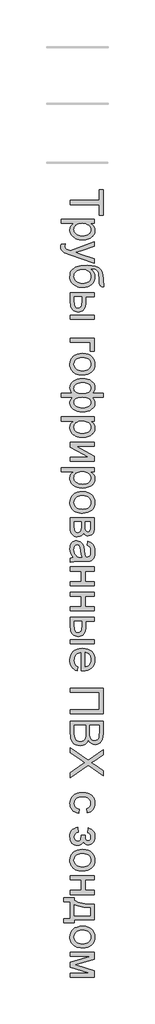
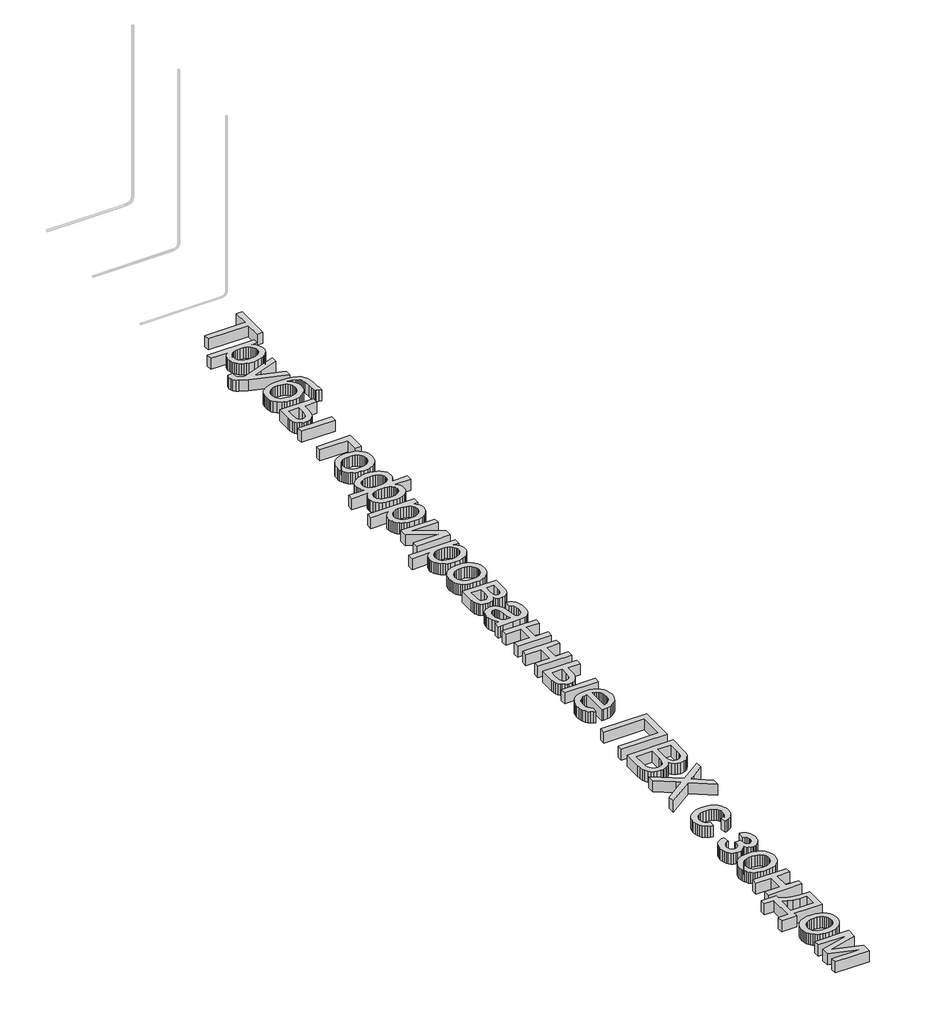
# One storey, part 26 of 33: 1 proxy.
"""IFC4 building model written with IfcOpenShell, lengths in millimetres."""

from ifc_helpers import new_model, si_unit, origin, origin_with_axes, place, context, project, spatial, polyline, outline, extrude, element, save

model = new_model("IFC4")

# Units and contexts
model_context = context("Model", 3, world=origin())
ifc_project = project(units=[si_unit("LENGTHUNIT", "METRE", prefix="MILLI")], contexts=[model_context])

# Site, building, storey
site = spatial("IfcSite", under=ifc_project)
building = spatial("IfcBuilding", under=site)
storey = spatial("IfcBuildingStorey", under=building, Name="Уровень 1", Elevation=0.0)

# Proxy
placement = place(None, origin())
element("IfcBuildingElementProxy", 1, Name="Надпись на модели 1", ObjectType="Надпись на модели 1", at=placement, inside=storey, context=model_context, shape_type="SweptSolid", body=[
    extrude(outline(polyline([(74424.4625724, -714.6440607), (74941.3856493, -714.6440607), (74941.3856493, -520.7979069), (75015.2318032, -520.7979069), (75015.2318032, -982.3363684), (74941.3856493, -982.3363684), (74941.3856493, -788.4902146), (74424.4625724, -788.4902146), (74424.4625724, -714.6440607)])), origin_with_axes(), (0.0, 0.0, 1.0), 150.0),
    extrude(outline(polyline([(74258.3087262, -1056.1825223), (74858.3087262, -1056.1825223), (74858.3087262, -1130.0286761), (74785.9048801, -1130.0286761), (74821.6200243, -1154.1152146), (74847.1308416, -1181.0863684), (74862.437332, -1212.5286761), (74867.5394955, -1250.0286761), (74865.7546397, -1275.7828829), (74860.4000724, -1299.96858), (74851.4757936, -1322.5857675), (74838.9818032, -1343.6344454), (74823.2426205, -1362.6548781), (74804.5827647, -1379.18733), (74783.0022359, -1393.2318011), (74758.5010339, -1404.7882915), (74704.0899762, -1420.2570415), (74644.702957, -1425.4132915), (74581.5479089, -1419.5899742), (74552.4718873, -1412.3108276), (74525.0635339, -1402.1200223), (74500.0394955, -1389.1572819), (74478.1164186, -1373.56233), (74459.2943032, -1355.3351665), (74443.5731493, -1334.4757915), (74431.1738104, -1312.007342), (74422.3171397, -1288.952955), (74417.0031373, -1265.3126305), (74415.2318032, -1241.0863684), (74419.9733897, -1207.1380511), (74434.1981493, -1176.8315607), (74455.6705051, -1150.8880511), (74482.1548801, -1130.0286761), (74258.3087262, -1130.0286761), (74258.3087262, -1056.1825223)]), holes=[polyline([(74637.9241109, -1130.0286761), (74602.3351686, -1132.0253708), (74571.7221878, -1138.015455), (74546.0851686, -1147.9989285), (74525.4241109, -1161.9757915), (74509.5226686, -1178.8012122), (74498.1644955, -1197.3303588), (74491.3495916, -1217.5632314), (74489.077957, -1239.49983), (74491.4307214, -1261.7519333), (74498.4890147, -1282.3543973), (74510.2528368, -1301.3072218), (74526.7221878, -1318.6104069), (74548.1314426, -1333.0289766), (74574.7149762, -1343.327955), (74606.4727887, -1349.507342), (74643.4048801, -1351.5671377), (74678.687332, -1349.5569213), (74709.2462262, -1343.5262723), (74735.0815628, -1333.4751906), (74756.1933416, -1319.4036761), (74772.5995916, -1302.5376906), (74784.3183416, -1284.1031954), (74791.3495916, -1264.1001906), (74793.6933416, -1242.5286761), (74791.2008537, -1221.0247699), (74783.7233897, -1200.7918973), (74771.2609498, -1181.8300583), (74753.8135339, -1164.1392531), (74731.6155171, -1149.2158756), (74704.9012743, -1138.5563204), (74673.6708056, -1132.1605872), (74637.9241109, -1130.0286761)])]), origin_with_axes(), (0.0, 0.0, 1.0), 150.0),
    extrude(outline(polyline([(74258.3087262, -1508.4902146), (74329.4144955, -1499.2594454), (74322.9241109, -1536.7594454), (74324.9613705, -1556.4830031), (74331.0731493, -1571.8075223), (74340.8267551, -1583.7426184), (74353.7894955, -1593.2979069), (74408.1644955, -1613.4902146), (74426.0491109, -1619.2594454), (74858.3087262, -1462.3363684), (74858.3087262, -1540.2209838), (74617.4433416, -1623.4421377), (74521.0971878, -1652.4325223), (74606.1933416, -1681.4229069), (74858.3087262, -1766.9517531), (74858.3087262, -1844.2594454), (74414.077957, -1693.24983), (74317.7318032, -1654.0190607), (74286.9745916, -1633.9349261), (74265.6644955, -1611.1825223), (74253.2245916, -1584.7522338), (74249.077957, -1553.6344454), (74251.3856493, -1532.2522338), (74258.3087262, -1508.4902146)])), origin_with_axes(), (0.0, 0.0, 1.0), 150.0),
    extrude(outline(polyline([(75024.4625724, -2210.0286761), (75024.4625724, -2274.6440607), (74989.3604089, -2267.6488684), (74966.8423801, -2255.6055992), (74953.5190628, -2238.9108877), (74946.0010339, -2217.9613684), (74942.5394955, -2183.8147338), (74941.3856493, -2127.5286761), (74937.1308416, -2052.4385319), (74931.812332, -2025.5349862), (74924.3664186, -2005.7257915), (74914.5767551, -1990.608604), (74902.2269955, -1977.78108), (74887.3171397, -1967.2432194), (74869.8471878, -1958.9950223), (74826.9745916, -1947.9433396), (74773.3568032, -1943.2017531), (74814.6068032, -1972.8952627), (74844.0298801, -2007.1680992), (74861.6620916, -2046.0563204), (74867.5394955, -2089.5959838), (74863.8030171, -2129.827354), (74852.593582, -2166.4349261), (74833.9111902, -2199.4187002), (74807.7558416, -2228.7786761), (74775.227296, -2252.8832434), (74737.4253128, -2270.1007915), (74694.3498921, -2280.4313204), (74646.0010339, -2283.87483), (74609.0148561, -2282.1665968), (74575.5082455, -2277.0418973), (74545.4812022, -2268.5007314), (74518.9337262, -2256.5430992), (74474.9613705, -2226.6693011), (74442.2750724, -2191.7113684), (74430.4436421, -2171.2666569), (74421.9926205, -2147.4325223), (74416.9220075, -2120.2089646), (74415.2318032, -2089.5959838), (74417.4087863, -2054.1828228), (74423.9397359, -2022.9433396), (74434.8246517, -1995.8775343), (74450.0635339, -1972.9854069), (74468.6963464, -1953.3925583), (74489.7630532, -1936.2245896), (74513.2636541, -1921.4815006), (74539.1981493, -1909.1632915), (74571.3841469, -1899.4457434), (74613.6392551, -1892.5046377), (74665.9634738, -1888.3399742), (74728.3568032, -1886.9517531), (74806.1107094, -1890.4538564), (74870.0455051, -1900.9601665), (74920.1611902, -1918.4706833), (74940.0368663, -1929.8525193), (74956.4577647, -1942.9854069), (74982.1714065, -1974.7657555), (75000.5382936, -2014.0731473), (75011.5584258, -2060.9075824), (75015.2318032, -2115.2690607), (75016.890457, -2197.4805992), (75019.6128128, -2205.5214646), (75024.4625724, -2210.0286761)]), holes=[polyline([(74648.3087262, -2210.0286761), (74678.8090267, -2208.0274742), (74706.4156974, -2202.0238684), (74731.1287383, -2192.0178588), (74752.9481493, -2178.0094454), (74770.774171, -2160.359205), (74783.5070436, -2139.4277146), (74791.1467671, -2115.2149742), (74793.6933416, -2087.7209838), (74791.0025363, -2059.0280752), (74782.9301205, -2033.8147338), (74769.476094, -2012.0809598), (74750.640457, -1993.8267531), (74727.3066229, -1979.3766329), (74700.3580051, -1969.0551184), (74669.7946037, -1962.8622098), (74635.6164186, -1960.7979069), (74602.1503729, -1963.0785559), (74572.8580051, -1969.9205031), (74547.7393152, -1981.3237482), (74526.7943032, -1997.2882915), (74510.2934017, -2016.5971857), (74498.5070436, -2038.0334838), (74491.4352287, -2061.5971857), (74489.077957, -2087.2882915), (74491.80482, -2113.3309598), (74499.9854089, -2136.7955031), (74513.6197238, -2157.6819213), (74532.7077647, -2175.9902146), (74556.2940027, -2190.8820415), (74583.4229089, -2201.5190607), (74614.0944835, -2207.9012723), (74648.3087262, -2210.0286761)])]), origin_with_axes(), (0.0, 0.0, 1.0), 150.0),
    extrude(outline(polyline([(74858.3087262, -2376.1825223), (74858.3087262, -2450.0286761), (74701.3856493, -2450.0286761), (74701.3856493, -2541.3267531), (74699.0734498, -2583.3384718), (74692.1368512, -2620.2390127), (74680.5758537, -2652.0283756), (74664.390457, -2678.7065607), (74644.1395556, -2699.8138324), (74620.3820436, -2714.890455), (74593.117921, -2723.9364285), (74562.3471878, -2726.9517531), (74534.8937623, -2724.4232074), (74509.5046397, -2716.8375704), (74486.17982, -2704.194842), (74464.9193032, -2686.4950223), (74447.2194835, -2663.242318), (74434.5767551, -2633.9409357), (74426.9911181, -2598.5908756), (74424.4625724, -2557.1921377), (74424.4625724, -2376.1825223), (74858.3087262, -2376.1825223)]), holes=[polyline([(74498.3087262, -2450.0286761), (74498.3087262, -2525.8940607), (74502.1849282, -2584.7041569), (74507.0301806, -2606.7263925), (74513.8135339, -2623.8267531), (74522.6521758, -2636.6362482), (74533.6632936, -2645.7858877), (74546.8468873, -2651.2756713), (74562.202957, -2653.1055992), (74586.3255532, -2647.6789165), (74607.6356493, -2631.3988684), (74616.343582, -2617.2687603), (74622.5635339, -2596.5851665), (74627.5394955, -2535.5575223), (74627.5394955, -2450.0286761), (74498.3087262, -2450.0286761)])]), origin_with_axes(), (0.0, 0.0, 1.0), 150.0),
    extrude(outline(polyline([(74858.3087262, -2782.3363684), (74858.3087262, -2856.1825223), (74424.4625724, -2856.1825223), (74424.4625724, -2782.3363684), (74858.3087262, -2782.3363684)])), origin_with_axes(), (0.0, 0.0, 1.0), 150.0),
    extrude(outline(polyline([(74858.3087262, -3197.7209838), (74858.3087262, -3437.7209838), (74784.4625724, -3437.7209838), (74784.4625724, -3271.5671377), (74424.4625724, -3271.5671377), (74424.4625724, -3197.7209838), (74858.3087262, -3197.7209838)])), origin_with_axes(), (0.0, 0.0, 1.0), 150.0),
    extrude(outline(polyline([(74641.3856493, -3474.6440607), (74697.5725484, -3478.6374502), (74745.9890147, -3490.6176184), (74786.6350484, -3510.5845656), (74819.5106493, -3538.5382915), (74840.5232695, -3566.6813204), (74855.5322839, -3597.7450223), (74864.5376926, -3631.7293973), (74867.5394955, -3668.6344454), (74863.8841469, -3709.3751305), (74852.9181012, -3746.2125704), (74834.6413585, -3779.1467651), (74809.0539186, -3808.1777146), (74777.0211662, -3831.8721256), (74739.4084859, -3848.796705), (74696.2158777, -3858.9514526), (74647.4433416, -3862.3363684), (74607.9150964, -3860.8399742), (74572.8399762, -3856.3507915), (74542.2179811, -3848.8688204), (74516.0491109, -3838.3940607), (74493.445445, -3825.0572218), (74473.5190628, -3808.9890127), (74456.2699642, -3790.1894333), (74441.6981493, -3768.6584838), (74430.1191229, -3745.2345055), (74421.8483897, -3720.7558396), (74416.8859498, -3695.2224862), (74415.2318032, -3668.6344454), (74418.8736301, -3627.2988083), (74429.7991109, -3590.1188204), (74448.0082455, -3557.0944814), (74473.5010339, -3528.2257915), (74505.8447839, -3504.7837843), (74544.6068032, -3488.0394934), (74589.7870916, -3477.9929189), (74641.3856493, -3474.6440607)]), holes=[polyline([(74641.5298801, -3548.4902146), (74605.71107, -3550.6266329), (74574.6969474, -3557.0358877), (74548.4875123, -3567.717979), (74527.0827647, -3582.6729069), (74510.4556613, -3600.8640127), (74498.5791589, -3621.2546377), (74491.4532575, -3643.8447819), (74489.077957, -3668.6344454), (74491.4667791, -3693.2979069), (74498.6332455, -3715.7979069), (74510.5773561, -3736.1344454), (74527.2991109, -3754.3075223), (74548.9156974, -3769.2624502), (74575.5443032, -3779.9445415), (74607.1849282, -3786.3537963), (74643.8375724, -3788.4902146), (74678.5205652, -3786.3402747), (74708.7233897, -3779.890455), (74734.446046, -3769.1407555), (74755.6885339, -3754.0911761), (74772.3156373, -3735.850491), (74784.1921397, -3715.5274742), (74791.3180412, -3693.1221256), (74793.6933416, -3668.6344454), (74791.3270556, -3643.8447819), (74784.2281974, -3621.2546377), (74772.3967671, -3600.8640127), (74755.8327647, -3582.6729069), (74734.4911181, -3567.717979), (74708.3267551, -3557.0358877), (74677.3396758, -3550.6266329), (74641.5298801, -3548.4902146)])]), origin_with_axes(), (0.0, 0.0, 1.0), 150.0),
    extrude(outline(polyline([(75015.2318032, -4194.6440607), (75015.2318032, -4268.4902146), (74816.6260339, -4268.4902146), (74839.0358897, -4290.9000704), (74854.9193032, -4315.43733), (74864.3844474, -4341.9938204), (74867.5394955, -4370.4613684), (74863.5280772, -4404.648568), (74851.4938224, -4435.0947819), (74831.4367311, -4461.8000103), (74803.3568032, -4484.7642531), (74769.1921397, -4503.2212843), (74730.8808416, -4516.4048781), (74688.4229089, -4524.3150343), (74641.8183416, -4526.9517531), (74593.4875123, -4524.1122098), (74550.0334859, -4515.59358), (74511.4562623, -4501.3958636), (74477.7558416, -4481.5190607), (74450.4015748, -4457.4235079), (74430.8628128, -4430.5695415), (74419.1395556, -4400.9571617), (74415.2318032, -4368.5863684), (74417.0346878, -4346.1945415), (74422.4433416, -4323.4421377), (74435.8928609, -4298.2378107), (74461.8183416, -4268.4902146), (74258.3087262, -4268.4902146), (74258.3087262, -4194.6440607), (74461.8183416, -4194.6440607), (74441.4818032, -4172.1801184), (74426.9144955, -4147.4805992), (74418.1524762, -4120.6176184), (74415.2318032, -4091.6632915), (74418.9637743, -4059.6801184), (74430.1596878, -4029.7882915), (74448.8195436, -4001.9878107), (74474.9433416, -3976.2786761), (74508.0172599, -3954.6981473), (74547.5274762, -3939.2834838), (74593.4739907, -3930.0346857), (74645.8568032, -3926.9517531), (74691.0461061, -3929.741717), (74732.4313224, -3938.1116088), (74770.0124522, -3952.0614285), (74803.7894955, -3971.5911761), (74831.6801205, -3995.835467), (74851.6019955, -4023.9289165), (74863.5551205, -4055.8715247), (74867.5394955, -4091.6632915), (74864.3844474, -4121.7534357), (74854.9193032, -4148.8507915), (74839.0358897, -4173.0995896), (74816.6260339, -4194.6440607), (75015.2318032, -4194.6440607)]), holes=[polyline([(74640.0875724, -4268.0575223), (74599.0403969, -4269.5944814), (74565.3219474, -4274.2053588), (74538.9322238, -4281.8901545), (74519.8712262, -4292.6488684), (74506.399171, -4305.7242891), (74496.7762743, -4320.359205), (74491.0025363, -4336.553616), (74489.077957, -4354.3075223), (74491.4442431, -4374.0355872), (74498.5431012, -4392.2582434), (74510.3745315, -4408.975491), (74526.9385339, -4424.18733), (74548.4875123, -4436.8390728), (74575.2738705, -4445.8760319), (74607.2976085, -4451.2982074), (74644.5587262, -4453.1055992), (74679.8051205, -4451.4379309), (74710.2558416, -4446.4349261), (74735.9108897, -4438.0965848), (74756.7702647, -4426.4229069), (74772.9241109, -4412.1350463), (74784.4625724, -4395.9541569), (74791.3856493, -4377.8802386), (74793.6933416, -4357.9132915), (74791.2909979, -4336.9412362), (74784.0839666, -4318.7366088), (74772.0722479, -4303.2994093), (74755.2558416, -4290.6296377), (74733.6437623, -4280.7543372), (74707.2450243, -4273.7005511), (74676.0596277, -4269.4682795), (74640.0875724, -4268.0575223)]), polyline([(74647.4433416, -4000.7979069), (74608.2756734, -4002.6458636), (74575.0034378, -4008.1897338), (74547.6266349, -4017.4295175), (74526.1452647, -4030.3652146), (74509.9283176, -4046.0412963), (74498.3447839, -4063.5022338), (74491.3946637, -4082.7480271), (74489.077957, -4103.7786761), (74491.3811421, -4125.2645535), (74498.2906974, -4143.8568011), (74509.8066229, -4159.5554189), (74525.9289186, -4172.3604069), (74546.6575844, -4182.2988083), (74571.9926205, -4189.3976665), (74601.9340267, -4193.6569814), (74636.4818032, -4195.0767531), (74673.3282575, -4193.584866), (74705.2618512, -4189.109205), (74732.2825844, -4181.6497699), (74754.390457, -4171.2065607), (74771.585469, -4157.7525343), (74783.8676205, -4141.2606473), (74791.2369113, -4121.7308997), (74793.6933416, -4099.1632915), (74791.2955051, -4078.3940607), (74784.1019955, -4059.6440607), (74772.1128128, -4042.9132915), (74755.327957, -4028.2017531), (74734.1981493, -4016.2125704), (74709.1741109, -4007.6488684), (74680.2558416, -4002.5106473), (74647.4433416, -4000.7979069)])]), origin_with_axes(), (0.0, 0.0, 1.0), 150.0),
    extrude(outline(polyline([(74258.3087262, -4619.2594454), (74858.3087262, -4619.2594454), (74858.3087262, -4693.1055992), (74785.9048801, -4693.1055992), (74821.6200243, -4717.1921377), (74847.1308416, -4744.1632915), (74862.437332, -4775.6055992), (74867.5394955, -4813.1055992), (74865.7546397, -4838.8598059), (74860.4000724, -4863.0455031), (74851.4757936, -4885.6626906), (74838.9818032, -4906.7113684), (74823.2426205, -4925.7318011), (74804.5827647, -4942.2642531), (74783.0022359, -4956.3087242), (74758.5010339, -4967.8652146), (74704.0899762, -4983.3339646), (74644.702957, -4988.4902146), (74581.5479089, -4982.6668973), (74552.4718873, -4975.3877506), (74525.0635339, -4965.1969454), (74500.0394955, -4952.234205), (74478.1164186, -4936.6392531), (74459.2943032, -4918.4120896), (74443.5731493, -4897.5527146), (74431.1738104, -4875.0842651), (74422.3171397, -4852.0298781), (74417.0031373, -4828.3895535), (74415.2318032, -4804.1632915), (74419.9733897, -4770.2149742), (74434.1981493, -4739.9084838), (74455.6705051, -4713.9649742), (74482.1548801, -4693.1055992), (74258.3087262, -4693.1055992), (74258.3087262, -4619.2594454)]), holes=[polyline([(74637.9241109, -4693.1055992), (74602.3351686, -4695.1022939), (74571.7221878, -4701.0923781), (74546.0851686, -4711.0758516), (74525.4241109, -4725.0527146), (74509.5226686, -4741.8781353), (74498.1644955, -4760.4072819), (74491.3495916, -4780.6401545), (74489.077957, -4802.5767531), (74491.4307214, -4824.8288564), (74498.4890147, -4845.4313204), (74510.2528368, -4864.3841449), (74526.7221878, -4881.68733), (74548.1314426, -4896.1058997), (74574.7149762, -4906.4048781), (74606.4727887, -4912.5842651), (74643.4048801, -4914.6440607), (74678.687332, -4912.6338444), (74709.2462262, -4906.6031954), (74735.0815628, -4896.5521136), (74756.1933416, -4882.4805992), (74772.5995916, -4865.6146136), (74784.3183416, -4847.1801184), (74791.3495916, -4827.1771136), (74793.6933416, -4805.6055992), (74791.2008537, -4784.101693), (74783.7233897, -4763.8688204), (74771.2609498, -4744.9069814), (74753.8135339, -4727.2161761), (74731.6155171, -4712.2927987), (74704.9012743, -4701.6332434), (74673.6708056, -4695.2375103), (74637.9241109, -4693.1055992)])]), origin_with_axes(), (0.0, 0.0, 1.0), 150.0),
    extrude(outline(polyline([(74858.3087262, -5071.5671377), (74858.3087262, -5145.4132915), (74527.4433416, -5145.4132915), (74858.3087262, -5326.8555992), (74858.3087262, -5422.3363684), (74424.4625724, -5422.3363684), (74424.4625724, -5348.4902146), (74753.3087262, -5348.4902146), (74424.4625724, -5168.2017531), (74424.4625724, -5071.5671377), (74858.3087262, -5071.5671377)])), origin_with_axes(), (0.0, 0.0, 1.0), 150.0),
    extrude(outline(polyline([(74258.3087262, -5533.1055992), (74858.3087262, -5533.1055992), (74858.3087262, -5606.9517531), (74785.9048801, -5606.9517531), (74821.6200243, -5631.0382915), (74847.1308416, -5658.0094454), (74862.437332, -5689.4517531), (74867.5394955, -5726.9517531), (74865.7546397, -5752.7059598), (74860.4000724, -5776.8916569), (74851.4757936, -5799.5088444), (74838.9818032, -5820.5575223), (74823.2426205, -5839.577955), (74804.5827647, -5856.1104069), (74783.0022359, -5870.1548781), (74758.5010339, -5881.7113684), (74704.0899762, -5897.1801184), (74644.702957, -5902.3363684), (74581.5479089, -5896.5130511), (74552.4718873, -5889.2339045), (74525.0635339, -5879.0430992), (74500.0394955, -5866.0803588), (74478.1164186, -5850.4854069), (74459.2943032, -5832.2582434), (74443.5731493, -5811.3988684), (74431.1738104, -5788.9304189), (74422.3171397, -5765.8760319), (74417.0031373, -5742.2357074), (74415.2318032, -5718.0094454), (74419.9733897, -5684.0611281), (74434.1981493, -5653.7546377), (74455.6705051, -5627.8111281), (74482.1548801, -5606.9517531), (74258.3087262, -5606.9517531), (74258.3087262, -5533.1055992)]), holes=[polyline([(74637.9241109, -5606.9517531), (74602.3351686, -5608.9484478), (74571.7221878, -5614.9385319), (74546.0851686, -5624.9220055), (74525.4241109, -5638.8988684), (74509.5226686, -5655.7242891), (74498.1644955, -5674.2534357), (74491.3495916, -5694.4863083), (74489.077957, -5716.4229069), (74491.4307214, -5738.6750103), (74498.4890147, -5759.2774742), (74510.2528368, -5778.2302987), (74526.7221878, -5795.5334838), (74548.1314426, -5809.9520535), (74574.7149762, -5820.2510319), (74606.4727887, -5826.4304189), (74643.4048801, -5828.4902146), (74678.687332, -5826.4799982), (74709.2462262, -5820.4493492), (74735.0815628, -5810.3982675), (74756.1933416, -5796.3267531), (74772.5995916, -5779.4607675), (74784.3183416, -5761.0262723), (74791.3495916, -5741.0232675), (74793.6933416, -5719.4517531), (74791.2008537, -5697.9478468), (74783.7233897, -5677.7149742), (74771.2609498, -5658.7531353), (74753.8135339, -5641.06233), (74731.6155171, -5626.1389526), (74704.9012743, -5615.4793973), (74673.6708056, -5609.0836641), (74637.9241109, -5606.9517531)])]), origin_with_axes(), (0.0, 0.0, 1.0), 150.0),
    extrude(outline(polyline([(74641.3856493, -5966.9517531), (74697.5725484, -5970.9451425), (74745.9890147, -5982.9253107), (74786.6350484, -6002.8922579), (74819.5106493, -6030.8459838), (74840.5232695, -6058.9890127), (74855.5322839, -6090.0527146), (74864.5376926, -6124.0370896), (74867.5394955, -6160.9421377), (74863.8841469, -6201.6828228), (74852.9181012, -6238.5202627), (74834.6413585, -6271.4544574), (74809.0539186, -6300.4854069), (74777.0211662, -6324.179818), (74739.4084859, -6341.1043973), (74696.2158777, -6351.2591449), (74647.4433416, -6354.6440607), (74607.9150964, -6353.1476665), (74572.8399762, -6348.6584838), (74542.2179811, -6341.1765127), (74516.0491109, -6330.7017531), (74493.445445, -6317.3649141), (74473.5190628, -6301.296705), (74456.2699642, -6282.4971256), (74441.6981493, -6260.9661761), (74430.1191229, -6237.5421978), (74421.8483897, -6213.0635319), (74416.8859498, -6187.5301785), (74415.2318032, -6160.9421377), (74418.8736301, -6119.6065006), (74429.7991109, -6082.4265127), (74448.0082455, -6049.4021737), (74473.5010339, -6020.5334838), (74505.8447839, -5997.0914766), (74544.6068032, -5980.3471857), (74589.7870916, -5970.3006112), (74641.3856493, -5966.9517531)]), holes=[polyline([(74641.5298801, -6040.7979069), (74605.71107, -6042.9343252), (74574.6969474, -6049.34358), (74548.4875123, -6060.0256713), (74527.0827647, -6074.9805992), (74510.4556613, -6093.171705), (74498.5791589, -6113.56233), (74491.4532575, -6136.1524742), (74489.077957, -6160.9421377), (74491.4667791, -6185.6055992), (74498.6332455, -6208.1055992), (74510.5773561, -6228.4421377), (74527.2991109, -6246.6152146), (74548.9156974, -6261.5701425), (74575.5443032, -6272.2522338), (74607.1849282, -6278.6614886), (74643.8375724, -6280.7979069), (74678.5205652, -6278.647967), (74708.7233897, -6272.1981473), (74734.446046, -6261.4484478), (74755.6885339, -6246.3988684), (74772.3156373, -6228.1581833), (74784.1921397, -6207.8351665), (74791.3180412, -6185.429818), (74793.6933416, -6160.9421377), (74791.3270556, -6136.1524742), (74784.2281974, -6113.56233), (74772.3967671, -6093.171705), (74755.8327647, -6074.9805992), (74734.4911181, -6060.0256713), (74708.3267551, -6049.34358), (74677.3396758, -6042.9343252), (74641.5298801, -6040.7979069)])]), origin_with_axes(), (0.0, 0.0, 1.0), 150.0),
    extrude(outline(polyline([(74858.3087262, -6437.7209838), (74858.3087262, -6600.4132915), (74855.8387743, -6652.7149742), (74848.4289186, -6689.6200223), (74834.4385339, -6716.7714646), (74812.2269955, -6739.81233), (74783.2906974, -6755.5515127), (74749.1260339, -6760.7979069), (74721.5959859, -6757.62483), (74697.8519955, -6748.1055992), (74677.7858897, -6732.2041569), (74661.2894955, -6709.8844454), (74645.9469474, -6737.2161761), (74621.265457, -6759.49983), (74589.1921397, -6774.3195415), (74551.6741109, -6779.2594454), (74521.4487503, -6775.1578829), (74495.3880532, -6766.7474261), (74473.4920195, -6754.0280752), (74455.7606493, -6736.99983), (74442.0677407, -6715.6356473), (74432.2870916, -6689.9084838), (74426.4187022, -6659.8183396), (74424.4625724, -6625.3652146), (74424.4625724, -6437.7209838), (74858.3087262, -6437.7209838)]), holes=[polyline([(74692.1548801, -6511.5671377), (74692.1548801, -6584.5479069), (74695.9048801, -6644.7642531), (74701.5298801, -6660.2690607), (74710.9048801, -6674.0430992), (74723.3087262, -6683.7245896), (74738.0202647, -6686.9517531), (74750.0184618, -6685.5364886), (74760.0515147, -6681.2906954), (74768.1194234, -6674.2143732), (74774.2221878, -6664.3075223), (74781.9024762, -6633.6224261), (74784.4625724, -6586.8555992), (74784.4625724, -6511.5671377), (74692.1548801, -6511.5671377)]), polyline([(74498.3087262, -6511.5671377), (74498.3087262, -6602.1440607), (74501.6440628, -6651.5070415), (74511.6500724, -6682.4805992), (74519.5331854, -6692.0809598), (74529.8411782, -6699.1031954), (74557.7318032, -6705.4132915), (74576.2113705, -6702.2582434), (74593.2846878, -6692.7930992), (74606.6440628, -6678.2618492), (74613.9818032, -6659.9084838), (74618.3087262, -6594.9325223), (74618.3087262, -6511.5671377), (74498.3087262, -6511.5671377)])]), origin_with_axes(), (0.0, 0.0, 1.0), 150.0),
    extrude(outline(polyline([(74479.8471878, -7148.4902146), (74449.5947839, -7113.2077627), (74429.7991109, -7076.8796377), (74418.8736301, -7038.6765127), (74415.2318032, -6997.7690607), (74417.422308, -6964.8889526), (74423.9938224, -6936.0563204), (74434.9463464, -6911.2711641), (74450.2798801, -6890.5334838), (74469.0208657, -6874.1587843), (74490.1957455, -6862.4625704), (74513.8045195, -6855.444842), (74539.8471878, -6853.1055992), (74570.4601686, -6856.6392531), (74598.2606493, -6867.2402146), (74622.0587262, -6883.5923781), (74640.6644955, -6904.3796377), (74654.7269955, -6928.8087242), (74664.8952647, -6956.0863684), (74676.0010339, -7019.9805992), (74687.6837262, -7095.4854069), (74701.3856493, -7148.0575223), (74717.827957, -7148.4902146), (74750.7846878, -7143.40608), (74762.9902166, -7137.0509117), (74772.3471878, -7128.1536761), (74781.6861301, -7112.7750704), (74788.3568032, -7094.0430992), (74793.6933416, -7046.5190607), (74790.1416589, -7002.5286761), (74779.4866109, -6971.8075223), (74759.781082, -6950.8580031), (74729.077957, -6936.1825223), (74738.3087262, -6862.3363684), (74778.6933416, -6875.1548781), (74810.4241109, -6894.2834838), (74834.6909378, -6921.5070415), (74852.6837262, -6958.6104069), (74863.8255532, -7003.9890127), (74867.5394955, -7056.0382915), (74864.2582455, -7105.9601665), (74854.4144955, -7145.5334838), (74839.6128128, -7175.3712242), (74821.4577647, -7196.0863684), (74799.0118512, -7209.8243492), (74771.3375724, -7218.7305992), (74706.7221878, -7222.3363684), (74614.8471878, -7222.3363684), (74486.5539186, -7226.0863684), (74454.8411782, -7231.6392531), (74424.4625724, -7240.7979069), (74424.4625724, -7166.9517531), (74450.1356493, -7155.12483), (74479.8471878, -7148.4902146)]), holes=[polyline([(74627.5394955, -7148.4902146), (74615.2438224, -7098.87483), (74604.8952647, -7029.3555992), (74592.9241109, -6965.8219454), (74584.7390147, -6949.2894934), (74573.452957, -6937.0479069), (74559.9313224, -6929.4757915), (74545.0394955, -6926.9517531), (74523.0803609, -6932.4505511), (74505.0875724, -6948.9469454), (74493.0803609, -6976.0803588), (74489.077957, -7013.4902146), (74493.4950243, -7053.1536761), (74506.7462262, -7088.2017531), (74526.2714666, -7116.6152146), (74549.5106493, -7136.37483), (74573.452957, -7145.1368492), (74606.6260339, -7148.0575223), (74627.5394955, -7148.4902146)])]), origin_with_axes(), (0.0, 0.0, 1.0), 150.0),
    extrude(outline(polyline([(74858.3087262, -7323.87483), (74858.3087262, -7397.7209838), (74692.1548801, -7397.7209838), (74692.1548801, -7591.5671377), (74858.3087262, -7591.5671377), (74858.3087262, -7665.4132915), (74424.4625724, -7665.4132915), (74424.4625724, -7591.5671377), (74618.3087262, -7591.5671377), (74618.3087262, -7397.7209838), (74424.4625724, -7397.7209838), (74424.4625724, -7323.87483), (74858.3087262, -7323.87483)])), origin_with_axes(), (0.0, 0.0, 1.0), 150.0),
    extrude(outline(polyline([(74858.3087262, -7776.1825223), (74858.3087262, -7850.0286761), (74692.1548801, -7850.0286761), (74692.1548801, -8043.87483), (74858.3087262, -8043.87483), (74858.3087262, -8117.7209838), (74424.4625724, -8117.7209838), (74424.4625724, -8043.87483), (74618.3087262, -8043.87483), (74618.3087262, -7850.0286761), (74424.4625724, -7850.0286761), (74424.4625724, -7776.1825223), (74858.3087262, -7776.1825223)])), origin_with_axes(), (0.0, 0.0, 1.0), 150.0),
    extrude(outline(polyline([(74858.3087262, -8228.4902146), (74858.3087262, -8302.3363684), (74701.3856493, -8302.3363684), (74701.3856493, -8393.6344454), (74699.0734498, -8435.6461641), (74692.1368512, -8472.546705), (74680.5758537, -8504.336068), (74664.390457, -8531.0142531), (74644.1395556, -8552.1215247), (74620.3820436, -8567.1981473), (74593.117921, -8576.2441208), (74562.3471878, -8579.2594454), (74534.8937623, -8576.7308997), (74509.5046397, -8569.1452627), (74486.17982, -8556.5025343), (74464.9193032, -8538.8027146), (74447.2194835, -8515.5500103), (74434.5767551, -8486.2486281), (74426.9911181, -8450.898568), (74424.4625724, -8409.49983), (74424.4625724, -8228.4902146), (74858.3087262, -8228.4902146)]), holes=[polyline([(74498.3087262, -8302.3363684), (74498.3087262, -8378.2017531), (74502.1849282, -8437.0118492), (74507.0301806, -8459.0340848), (74513.8135339, -8476.1344454), (74522.6521758, -8488.9439406), (74533.6632936, -8498.09358), (74546.8468873, -8503.5833636), (74562.202957, -8505.4132915), (74586.3255532, -8499.9866088), (74607.6356493, -8483.7065607), (74616.343582, -8469.5764526), (74622.5635339, -8448.8928588), (74627.5394955, -8387.8652146), (74627.5394955, -8302.3363684), (74498.3087262, -8302.3363684)])]), origin_with_axes(), (0.0, 0.0, 1.0), 150.0),
    extrude(outline(polyline([(74858.3087262, -8634.6440607), (74858.3087262, -8708.4902146), (74424.4625724, -8708.4902146), (74424.4625724, -8634.6440607), (74858.3087262, -8634.6440607)])), origin_with_axes(), (0.0, 0.0, 1.0), 150.0),
    extrude(outline(polyline([(74553.6933416, -9123.0094454), (74544.4625724, -9195.4132915), (74515.4631734, -9184.3120295), (74489.9072839, -9169.3255511), (74467.7949041, -9150.4538564), (74449.1260339, -9127.6969454), (74434.297308, -9101.289193), (74423.7053609, -9071.4649742), (74417.3501926, -9038.2242891), (74415.2318032, -9001.5671377), (74418.8871517, -8955.7468252), (74429.8531974, -8914.9205031), (74448.1299402, -8879.0881713), (74473.7173801, -8848.24983), (74505.9033777, -8823.4511521), (74543.9757936, -8805.7378107), (74587.9346277, -8795.1098059), (74637.7798801, -8791.5671377), (74689.3153368, -8795.1458636), (74734.7390147, -8805.8820415), (74774.0509137, -8823.7756713), (74807.2510339, -8848.8267531), (74833.6272359, -8879.5839646), (74852.4673801, -8914.5959838), (74863.7714666, -8953.8628107), (74867.5394955, -8997.3844454), (74863.7804811, -9039.5043372), (74852.5034378, -9077.5947819), (74833.7083657, -9111.6557795), (74807.3952647, -9141.68733), (74774.2672599, -9166.2020535), (74735.0274762, -9183.7125704), (74689.6759137, -9194.2188805), (74638.2125724, -9197.7209838), (74618.3087262, -9197.2882915), (74618.3087262, -8865.4132915), (74588.8405772, -8869.6906353), (74563.0322839, -8878.1957434), (74540.8838464, -8890.928616), (74522.3952647, -8907.8892531), (74507.8189426, -8928.1401545), (74497.4072839, -8950.7438204), (74491.1602887, -8975.7002506), (74489.077957, -9003.0094454), (74492.9361301, -9042.31233), (74504.5106493, -9075.4132915), (74524.5226686, -9102.31233), (74553.6933416, -9123.0094454)]), holes=[polyline([(74692.1548801, -8865.4132915), (74692.1548801, -9123.87483), (74731.1693032, -9113.8868492), (74746.5118512, -9105.296104), (74759.077957, -9094.3075223), (74774.2221878, -9074.1693011), (74785.0394955, -9051.2546377), (74791.5298801, -9025.5635319), (74793.6933416, -8997.0959838), (74791.9670796, -8971.1299381), (74786.7882936, -8947.3183396), (74778.1569835, -8925.6611881), (74766.0731493, -8906.1584838), (74751.0956854, -8889.7927987), (74733.7834859, -8877.546705), (74714.1365508, -8869.4202026), (74692.1548801, -8865.4132915)])]), origin_with_axes(), (0.0, 0.0, 1.0), 150.0),
    extrude(outline(polyline([(75015.2318032, -9511.5671377), (75015.2318032, -9973.1055992), (74424.4625724, -9973.1055992), (74424.4625724, -9899.2594454), (74941.3856493, -9899.2594454), (74941.3856493, -9585.4132915), (74424.4625724, -9585.4132915), (74424.4625724, -9511.5671377), (75015.2318032, -9511.5671377)])), origin_with_axes(), (0.0, 0.0, 1.0), 150.0),
    extrude(outline(polyline([(74424.4625724, -10102.3363684), (75015.2318032, -10102.3363684), (75015.2318032, -10327.7690607), (75010.8868512, -10389.7702627), (74997.8519955, -10438.1777146), (74975.8027166, -10475.28108), (74961.2759738, -10490.452354), (74944.4144955, -10503.3700223), (74907.4914186, -10521.0563204), (74868.8375724, -10526.9517531), (74833.2666589, -10521.9938204), (74799.8231493, -10507.1200223), (74770.562332, -10482.2221857), (74747.5394955, -10447.1921377), (74738.0382936, -10469.4802987), (74725.6885339, -10489.0370896), (74710.4902166, -10505.8625103), (74692.4433416, -10519.9565607), (74672.0977887, -10531.0938805), (74650.0034378, -10539.0491088), (74626.1602887, -10543.8222458), (74600.5683416, -10545.4132915), (74559.3724282, -10541.0683396), (74521.1693032, -10528.0334838), (74488.6813224, -10508.5803588), (74464.6308416, -10484.9805992), (74447.2149762, -10456.0803588), (74434.6308416, -10420.7257915), (74427.0046397, -10377.7630511), (74424.4625724, -10326.0382915), (74424.4625724, -10102.3363684)]), holes=[polyline([(74775.2318032, -10176.1825223), (74775.2318032, -10311.0382915), (74776.8183416, -10358.2017531), (74781.577957, -10389.7882915), (74792.5214666, -10417.3543973), (74808.9096878, -10437.1680992), (74830.4902166, -10449.1212242), (74857.0106493, -10453.1055992), (74882.7558416, -10449.3916569), (74905.1837262, -10438.24983), (74922.6897359, -10420.1849261), (74933.6693032, -10395.7017531), (74939.4565628, -10358.1296377), (74941.3856493, -10300.7979069), (74941.3856493, -10176.1825223), (74775.2318032, -10176.1825223)]), polyline([(74498.3087262, -10176.1825223), (74498.3087262, -10327.62483), (74501.1933416, -10382.4325223), (74507.593582, -10407.8712242), (74517.2750724, -10428.8027146), (74531.1392551, -10445.8219454), (74550.0875724, -10459.5238684), (74573.2726686, -10468.5563204), (74599.8471878, -10471.5671377), (74630.7125724, -10468.0334838), (74657.2510339, -10457.4325223), (74678.0022359, -10438.9168973), (74691.5058416, -10411.6392531), (74698.9156974, -10373.0034357), (74701.3856493, -10320.4132915), (74701.3856493, -10176.1825223), (74498.3087262, -10176.1825223)])]), origin_with_axes(), (0.0, 0.0, 1.0), 150.0),
    extrude(outline(polyline([(74424.4625724, -10582.3363684), (74746.3856493, -10810.0767531), (75015.2318032, -10619.2594454), (75015.2318032, -10707.8171377), (74863.9337262, -10815.2690607), (74825.6043993, -10840.90608), (74804.9433416, -10851.4709838), (74864.9433416, -10893.87483), (75015.2318032, -11000.1729069), (75015.2318032, -11090.0286761), (74745.5202647, -10899.2113684), (74424.4625724, -11126.9517531), (74424.4625724, -11038.3940607), (74638.5010339, -10886.6632915), (74682.9241109, -10855.0767531), (74634.1741109, -10820.3171377), (74424.4625724, -10672.1921377), (74424.4625724, -10582.3363684)])), origin_with_axes(), (0.0, 0.0, 1.0), 150.0),
    extrude(outline(polyline([(74581.3856493, -11690.0286761), (74572.1548801, -11763.87483), (74537.3096277, -11755.842979), (74506.4757936, -11743.2858877), (74479.6533777, -11726.2035559), (74456.8423801, -11704.5959838), (74438.6377527, -11679.3736281), (74425.6344474, -11651.4469454), (74417.8324642, -11620.8159357), (74415.2318032, -11587.4805992), (74418.8601085, -11546.0638324), (74429.7450243, -11508.9289165), (74447.8865508, -11476.0758516), (74473.2846878, -11447.5046377), (74505.461671, -11424.3781353), (74543.9397359, -11407.859205), (74588.7188825, -11397.9478468), (74639.7991109, -11394.6440607), (74705.5142551, -11400.2870896), (74735.08607, -11407.3408756), (74762.4673801, -11417.2161761), (74787.1083056, -11429.9805992), (74808.4589666, -11445.7017531), (74826.5193633, -11464.3796377), (74841.2894955, -11486.0142531), (74852.7738705, -11509.6275343), (74860.9769955, -11534.2414165), (74865.8988705, -11559.8558997), (74867.5394955, -11586.4709838), (74865.2858897, -11619.2339045), (74858.5250724, -11648.8688204), (74847.2570436, -11675.3757314), (74831.4818032, -11698.7546377), (74811.5599282, -11718.6089045), (74787.8519955, -11734.5418973), (74760.3580051, -11746.553616), (74729.077957, -11754.6440607), (74719.8471878, -11680.7979069), (74752.0647359, -11667.4024742), (74775.1596878, -11646.5430992), (74789.0599282, -11619.3736281), (74793.6933416, -11587.0479069), (74791.4126926, -11561.9562603), (74784.5707455, -11539.3255511), (74773.1675003, -11519.1557795), (74757.202957, -11501.4469454), (74736.3075243, -11487.0283756), (74710.1116109, -11476.7293973), (74678.6152166, -11470.5500103), (74641.8183416, -11468.4902146), (74604.4670796, -11470.5049381), (74572.6056012, -11476.5491088), (74546.2339065, -11486.6227266), (74525.3519955, -11500.7257915), (74509.4821037, -11518.0830631), (74498.1464666, -11537.9193011), (74491.3450844, -11560.2345055), (74489.077957, -11585.0286761), (74494.7390147, -11623.2678588), (74501.8153368, -11639.804818), (74511.7221878, -11654.6200223), (74524.5677407, -11667.2988083), (74540.4601686, -11677.4265127), (74559.3994714, -11685.0031353), (74581.3856493, -11690.0286761)])), origin_with_axes(), (0.0, 0.0, 1.0), 150.0),
    extrude(outline(polyline([(74618.3087262, -12160.7979069), (74692.1548801, -12160.7979069), (74695.0394955, -12219.0671377), (74700.1777166, -12234.2113684), (74710.4000724, -12248.4902146), (74724.8051205, -12258.87483), (74742.4914186, -12262.3363684), (74763.4950243, -12257.702955), (74779.7750724, -12243.8027146), (74790.2137743, -12222.5827627), (74793.6933416, -12195.9902146), (74790.2318032, -12169.109205), (74779.8471878, -12146.5911761), (74762.5394955, -12128.4361281), (74738.3087262, -12114.6440607), (74747.5394955, -12031.5671377), (74775.6644955, -12041.1494694), (74800.0394955, -12053.5983877), (74820.6644955, -12068.9138925), (74837.5394955, -12087.0959838), (74850.6644955, -12108.1446617), (74860.0394955, -12132.0599261), (74865.6644955, -12158.8417771), (74867.5394955, -12188.4902146), (74865.2543392, -12221.2305992), (74858.3988705, -12250.2209838), (74846.9730892, -12275.4613684), (74830.9769955, -12296.9517531), (74811.8078248, -12314.1152146), (74790.8628128, -12326.37483), (74768.1419594, -12333.7305992), (74743.6452647, -12336.1825223), (74719.4144955, -12332.6939406), (74697.7798801, -12322.2281954), (74678.7414186, -12304.7852867), (74662.2991109, -12280.3652146), (74641.7822839, -12308.8688204), (74616.2894955, -12329.18733), (74585.7486301, -12341.3568011), (74550.0875724, -12345.4132915), (74521.4983296, -12342.8396737), (74495.7306012, -12335.1188204), (74472.7843873, -12322.2507314), (74452.6596878, -12304.2354069), (74436.2849883, -12281.5956833), (74424.5887743, -12254.8543973), (74417.571046, -12224.0115487), (74415.2318032, -12189.0671377), (74417.3952647, -12155.0061401), (74423.8856493, -12124.7221857), (74434.702957, -12098.2152747), (74449.8471878, -12075.4854069), (74469.3183416, -12056.5325824), (74493.1164186, -12041.3568011), (74521.2414186, -12029.9580631), (74553.6933416, -12022.3363684), (74562.9241109, -12105.4132915), (74531.6981493, -12117.8531954), (74508.4048801, -12138.7305992), (74493.9096878, -12165.6296377), (74489.077957, -12196.1344454), (74493.7113705, -12225.8459838), (74507.6116109, -12250.0767531), (74528.7233897, -12266.1945415), (74554.9914186, -12271.5671377), (74575.796707, -12268.2318011), (74593.7894955, -12258.2257915), (74607.2750724, -12244.4517531), (74614.5587262, -12229.81233), (74618.7414186, -12175.2209838), (74618.3087262, -12160.7979069)])), origin_with_axes(), (0.0, 0.0, 1.0), 150.0),
    extrude(outline(polyline([(74641.3856493, -12419.2594454), (74697.5725484, -12423.2528348), (74745.9890147, -12435.2330031), (74786.6350484, -12455.1999502), (74819.5106493, -12483.1536761), (74840.5232695, -12511.296705), (74855.5322839, -12542.3604069), (74864.5376926, -12576.3447819), (74867.5394955, -12613.24983), (74863.8841469, -12653.9905151), (74852.9181012, -12690.827955), (74834.6413585, -12723.7621497), (74809.0539186, -12752.7930992), (74777.0211662, -12776.4875103), (74739.4084859, -12793.4120896), (74696.2158777, -12803.5668372), (74647.4433416, -12806.9517531), (74607.9150964, -12805.4553588), (74572.8399762, -12800.9661761), (74542.2179811, -12793.484205), (74516.0491109, -12783.0094454), (74493.445445, -12769.6726064), (74473.5190628, -12753.6043973), (74456.2699642, -12734.804818), (74441.6981493, -12713.2738684), (74430.1191229, -12689.8498901), (74421.8483897, -12665.3712242), (74416.8859498, -12639.8378708), (74415.2318032, -12613.24983), (74418.8736301, -12571.914193), (74429.7991109, -12534.734205), (74448.0082455, -12501.709866), (74473.5010339, -12472.8411761), (74505.8447839, -12449.3991689), (74544.6068032, -12432.6548781), (74589.7870916, -12422.6083035), (74641.3856493, -12419.2594454)]), holes=[polyline([(74641.5298801, -12493.1055992), (74605.71107, -12495.2420175), (74574.6969474, -12501.6512723), (74548.4875123, -12512.3333636), (74527.0827647, -12527.2882915), (74510.4556613, -12545.4793973), (74498.5791589, -12565.8700223), (74491.4532575, -12588.4601665), (74489.077957, -12613.24983), (74491.4667791, -12637.9132915), (74498.6332455, -12660.4132915), (74510.5773561, -12680.74983), (74527.2991109, -12698.9229069), (74548.9156974, -12713.8778348), (74575.5443032, -12724.5599261), (74607.1849282, -12730.9691809), (74643.8375724, -12733.1055992), (74678.5205652, -12730.9556593), (74708.7233897, -12724.5058396), (74734.446046, -12713.7561401), (74755.6885339, -12698.7065607), (74772.3156373, -12680.4658756), (74784.1921397, -12660.1428588), (74791.3180412, -12637.7375103), (74793.6933416, -12613.24983), (74791.3270556, -12588.4601665), (74784.2281974, -12565.8700223), (74772.3967671, -12545.4793973), (74755.8327647, -12527.2882915), (74734.4911181, -12512.3333636), (74708.3267551, -12501.6512723), (74677.3396758, -12495.2420175), (74641.5298801, -12493.1055992)])]), origin_with_axes(), (0.0, 0.0, 1.0), 150.0),
    extrude(outline(polyline([(74858.3087262, -12890.0286761), (74858.3087262, -12963.87483), (74692.1548801, -12963.87483), (74692.1548801, -13157.7209838), (74858.3087262, -13157.7209838), (74858.3087262, -13231.5671377), (74424.4625724, -13231.5671377), (74424.4625724, -13157.7209838), (74618.3087262, -13157.7209838), (74618.3087262, -12963.87483), (74424.4625724, -12963.87483), (74424.4625724, -12890.0286761), (74858.3087262, -12890.0286761)])), origin_with_axes(), (0.0, 0.0, 1.0), 150.0),
    extrude(outline(polyline([(74858.3087262, -13406.9517531), (74858.3087262, -13683.87483), (74498.3087262, -13683.87483), (74498.3087262, -13739.2594454), (74304.4625724, -13739.2594454), (74304.4625724, -13665.4132915), (74424.4625724, -13665.4132915), (74424.4625724, -13360.7979069), (74304.4625724, -13360.7979069), (74304.4625724, -13286.9517531), (74498.3087262, -13286.9517531), (74498.3087262, -13333.1055992), (74526.1768152, -13351.1389526), (74558.9397359, -13366.6572819), (74596.5974883, -13379.6605872), (74639.1500724, -13390.1488684), (74738.9397359, -13403.5803588), (74858.3087262, -13406.9517531)]), holes=[polyline([(74784.4625724, -13471.5671377), (74694.0479089, -13465.5094454), (74616.2173801, -13454.2594454), (74550.9709859, -13437.8171377), (74498.3087262, -13416.1825223), (74498.3087262, -13610.0286761), (74784.4625724, -13610.0286761), (74784.4625724, -13471.5671377)])]), origin_with_axes(), (0.0, 0.0, 1.0), 150.0),
    extrude(outline(polyline([(74641.3856493, -13803.87483), (74697.5725484, -13807.8682194), (74745.9890147, -13819.8483877), (74786.6350484, -13839.8153348), (74819.5106493, -13867.7690607), (74840.5232695, -13895.9120896), (74855.5322839, -13926.9757915), (74864.5376926, -13960.9601665), (74867.5394955, -13997.8652146), (74863.8841469, -14038.6058997), (74852.9181012, -14075.4433396), (74834.6413585, -14108.3775343), (74809.0539186, -14137.4084838), (74777.0211662, -14161.1028949), (74739.4084859, -14178.0274742), (74696.2158777, -14188.1822218), (74647.4433416, -14191.5671377), (74607.9150964, -14190.0707434), (74572.8399762, -14185.5815607), (74542.2179811, -14178.0995896), (74516.0491109, -14167.62483), (74493.445445, -14154.287991), (74473.5190628, -14138.2197819), (74456.2699642, -14119.4202026), (74441.6981493, -14097.8892531), (74430.1191229, -14074.4652747), (74421.8483897, -14049.9866088), (74416.8859498, -14024.4532555), (74415.2318032, -13997.8652146), (74418.8736301, -13956.5295776), (74429.7991109, -13919.3495896), (74448.0082455, -13886.3252506), (74473.5010339, -13857.4565607), (74505.8447839, -13834.0145535), (74544.6068032, -13817.2702627), (74589.7870916, -13807.2236881), (74641.3856493, -13803.87483)]), holes=[polyline([(74641.5298801, -13877.7209838), (74605.71107, -13879.8574021), (74574.6969474, -13886.2666569), (74548.4875123, -13896.9487482), (74527.0827647, -13911.9036761), (74510.4556613, -13930.0947819), (74498.5791589, -13950.4854069), (74491.4532575, -13973.0755511), (74489.077957, -13997.8652146), (74491.4667791, -14022.5286761), (74498.6332455, -14045.0286761), (74510.5773561, -14065.3652146), (74527.2991109, -14083.5382915), (74548.9156974, -14098.4932194), (74575.5443032, -14109.1753107), (74607.1849282, -14115.5845656), (74643.8375724, -14117.7209838), (74678.5205652, -14115.5710439), (74708.7233897, -14109.1212242), (74734.446046, -14098.3715247), (74755.6885339, -14083.3219454), (74772.3156373, -14065.0812603), (74784.1921397, -14044.7582434), (74791.3180412, -14022.3528949), (74793.6933416, -13997.8652146), (74791.3270556, -13973.0755511), (74784.2281974, -13950.4854069), (74772.3967671, -13930.0947819), (74755.8327647, -13911.9036761), (74734.4911181, -13896.9487482), (74708.3267551, -13886.2666569), (74677.3396758, -13879.8574021), (74641.5298801, -13877.7209838)])]), origin_with_axes(), (0.0, 0.0, 1.0), 150.0),
    extrude(outline(polyline([(74858.3087262, -14274.6440607), (74858.3087262, -14401.7113684), (74511.0010339, -14499.6440607), (74858.3087262, -14605.2209838), (74858.3087262, -14726.9517531), (74424.4625724, -14726.9517531), (74424.4625724, -14653.1055992), (74773.7894955, -14653.1055992), (74424.4625724, -14546.9517531), (74424.4625724, -14450.0286761), (74790.5202647, -14348.4902146), (74424.4625724, -14348.4902146), (74424.4625724, -14274.6440607), (74858.3087262, -14274.6440607)])), origin_with_axes(), (0.0, 0.0, 1.0), 150.0),
])

save(model, "model.ifc")
